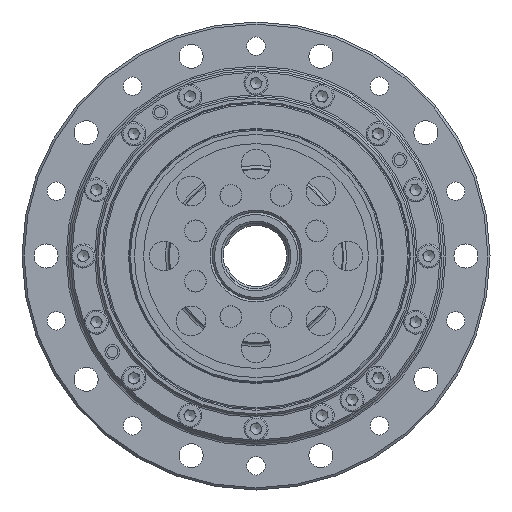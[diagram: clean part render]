
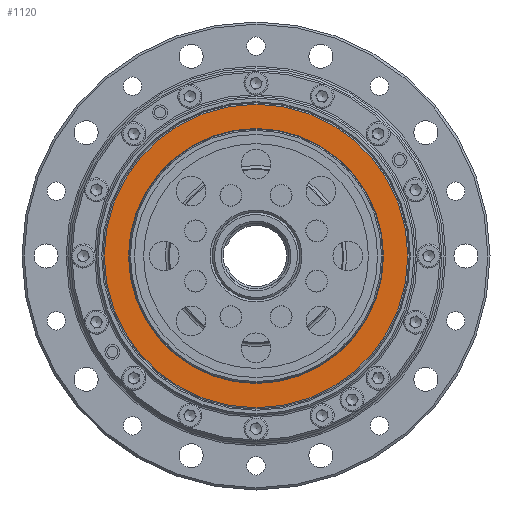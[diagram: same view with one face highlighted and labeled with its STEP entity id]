
A CAD part, left-side view. The second image highlights one B-rep face of the part: STEP entity #1120.
In plain terms, the highlighted planar face has unit normal (-1, 0, 0).
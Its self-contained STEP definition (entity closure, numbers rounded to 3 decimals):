
#1120 = ADVANCED_FACE ( 'NONE', ( #13461, #11324 ), #25628, .F. ) ;
#1376 = CARTESIAN_POINT ( 'NONE',  ( -30.9, 34.7, 0. ) ) ;
#1578 = DIRECTION ( 'NONE',  ( -1., 0., 0. ) ) ;
#2756 = EDGE_LOOP ( 'NONE', ( #4091 ) ) ;
#4083 = EDGE_LOOP ( 'NONE', ( #4795 ) ) ;
#4091 = ORIENTED_EDGE ( 'NONE', *, *, #17163, .T. ) ;
#4462 = CIRCLE ( 'NONE', #14634, 34.7 ) ;
#4795 = ORIENTED_EDGE ( 'NONE', *, *, #19311, .F. ) ;
#5373 = DIRECTION ( 'NONE',  ( 1., 0., 0. ) ) ;
#5857 = AXIS2_PLACEMENT_3D ( 'NONE', #17148, #13030, #15021 ) ;
#6559 = VERTEX_POINT ( 'NONE', #6815 ) ;
#6815 = CARTESIAN_POINT ( 'NONE',  ( -30.9, 0., 34.7 ) ) ;
#9666 = DIRECTION ( 'NONE',  ( 0., 0., 1. ) ) ;
#10345 = CARTESIAN_POINT ( 'NONE',  ( -30.9, 0., 29.141 ) ) ;
#11324 = FACE_OUTER_BOUND ( 'NONE', #2756, .T. ) ;
#13030 = DIRECTION ( 'NONE',  ( -1., 0., 0. ) ) ;
#13461 = FACE_BOUND ( 'NONE', #4083, .T. ) ;
#14634 = AXIS2_PLACEMENT_3D ( 'NONE', #17635, #1578, #9666 ) ;
#14754 = CIRCLE ( 'NONE', #5857, 29.141 ) ;
#15021 = DIRECTION ( 'NONE',  ( 0., 0., 1. ) ) ;
#17148 = CARTESIAN_POINT ( 'NONE',  ( -30.9, 0., 0. ) ) ;
#17163 = EDGE_CURVE ( 'NONE', #6559, #6559, #4462, .T. ) ;
#17332 = AXIS2_PLACEMENT_3D ( 'NONE', #1376, #5373, #23658 ) ;
#17635 = CARTESIAN_POINT ( 'NONE',  ( -30.9, 0., 0. ) ) ;
#19311 = EDGE_CURVE ( 'NONE', #22310, #22310, #14754, .T. ) ;
#22310 = VERTEX_POINT ( 'NONE', #10345 ) ;
#23658 = DIRECTION ( 'NONE',  ( 0., 0., -1. ) ) ;
#25628 = PLANE ( 'NONE',  #17332 ) ;
